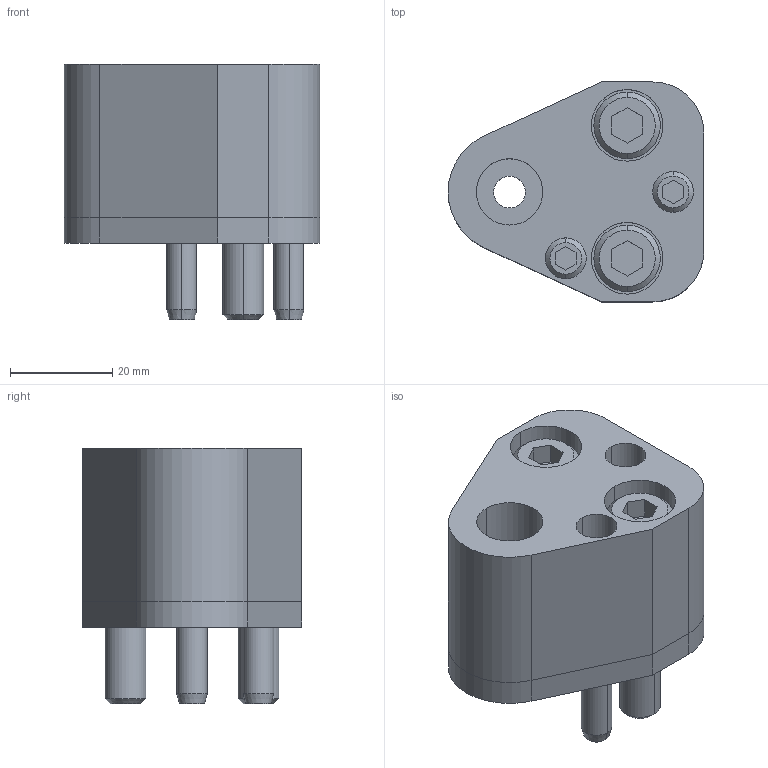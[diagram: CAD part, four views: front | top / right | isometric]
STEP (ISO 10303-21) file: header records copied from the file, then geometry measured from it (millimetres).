
FILE_DESCRIPTION(/* description */ (''),/* implementation_level */ '2;1');
FILE_NAME(/* name */ '3d_dp-ap13_02803_r00.stp',/* time_stamp */ '2011-01-10T14:15:58+09:00',/* author */ ('MISUMI'),/* organization */ (''),/* preprocessor_version */ 'ST-DEVELOPER v11',/* originating_system */ 'UGS - NX 5.0',/* authorisation */ '');
FILE_SCHEMA (('CONFIG_CONTROL_DESIGN'));
Length unit declared in the file: millimetre
Products named in the file (1): 3d_dp-ap13_02803_r00
Bounding box: 50 x 43 x 50 mm (x, y, z)
Volume: 52742.8 mm3; surface area: 21500 mm2
Topology: 8 solids, 8 shells, 155 faces, 346 edges, 222 vertices
Faces by surface type: plane 67, cylinder 62, cone 26
Entity records: 4480 total; most frequent: DIRECTION 804, CARTESIAN_POINT 778, ORIENTED_EDGE 692, EDGE_CURVE 346, AXIS2_PLACEMENT_3D 306, VERTEX_POINT 222, LINE 192, VECTOR 192
